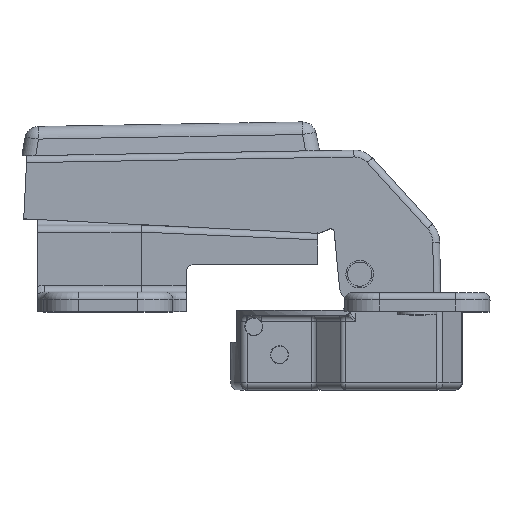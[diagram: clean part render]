
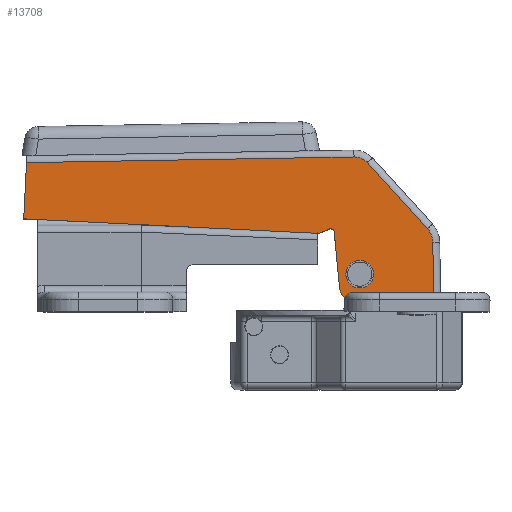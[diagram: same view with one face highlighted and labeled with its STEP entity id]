
A CAD part, top view. The second image highlights one B-rep face of the part: STEP entity #13708.
In plain terms, the highlighted planar face has unit normal (0, 0, 1).
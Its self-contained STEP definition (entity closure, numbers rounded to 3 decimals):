
#497=FACE_BOUND('',#2250,.T.);
#899=PLANE('',#14859);
#1400=FACE_OUTER_BOUND('',#2249,.T.);
#2249=EDGE_LOOP('',(#10511,#10512,#10513,#10514,#10515,#10516,#10517,#10518,
#10519,#10520,#10521,#10522,#10523,#10524,#10525));
#2250=EDGE_LOOP('',(#10526));
#3249=LINE('',#21939,#4314);
#3250=LINE('',#21970,#4315);
#3251=LINE('',#21978,#4316);
#3252=LINE('',#21984,#4317);
#3255=LINE('',#21993,#4320);
#3256=LINE('',#21997,#4321);
#3257=LINE('',#22001,#4322);
#3258=LINE('',#22005,#4323);
#3259=LINE('',#22009,#4324);
#3260=LINE('',#22010,#4325);
#4314=VECTOR('',#17433,8.134);
#4315=VECTOR('',#17446,8.02);
#4316=VECTOR('',#17457,12.92);
#4317=VECTOR('',#17466,47.353);
#4320=VECTOR('',#17475,7.1);
#4321=VECTOR('',#17480,42.572);
#4322=VECTOR('',#17483,1.57);
#4323=VECTOR('',#17486,8.322);
#4324=VECTOR('',#17489,5.083);
#4325=VECTOR('',#17490,0.25);
#5266=CIRCLE('',#14848,3.);
#5269=CIRCLE('',#14853,2.5);
#5272=CIRCLE('',#14860,0.5);
#5273=CIRCLE('',#14861,0.5);
#5274=CIRCLE('',#14862,1.5);
#5275=CIRCLE('',#14863,1.753);
#6200=VERTEX_POINT('',#21936);
#6201=VERTEX_POINT('',#21938);
#6203=VERTEX_POINT('',#21951);
#6205=VERTEX_POINT('',#21968);
#6206=VERTEX_POINT('',#21972);
#6207=VERTEX_POINT('',#21976);
#6208=VERTEX_POINT('',#21980);
#6211=VERTEX_POINT('',#21992);
#6212=VERTEX_POINT('',#21996);
#6213=VERTEX_POINT('',#21998);
#6214=VERTEX_POINT('',#22000);
#6215=VERTEX_POINT('',#22002);
#6216=VERTEX_POINT('',#22004);
#6217=VERTEX_POINT('',#22006);
#6218=VERTEX_POINT('',#22008);
#6219=VERTEX_POINT('',#22011);
#7745=EDGE_CURVE('',#6201,#6200,#3249,.T.);
#7752=EDGE_CURVE('',#6205,#6203,#3250,.T.);
#7754=EDGE_CURVE('',#6206,#6205,#5266,.T.);
#7756=EDGE_CURVE('',#6207,#6206,#3251,.T.);
#7758=EDGE_CURVE('',#6208,#6207,#5269,.T.);
#7759=EDGE_CURVE('',#6201,#6208,#3252,.T.);
#7763=EDGE_CURVE('',#6203,#6211,#3255,.T.);
#7765=EDGE_CURVE('',#6200,#6212,#3256,.T.);
#7766=EDGE_CURVE('',#6213,#6212,#5272,.T.);
#7767=EDGE_CURVE('',#6213,#6214,#3257,.T.);
#7768=EDGE_CURVE('',#6215,#6214,#5273,.T.);
#7769=EDGE_CURVE('',#6215,#6216,#3258,.T.);
#7770=EDGE_CURVE('',#6217,#6216,#5274,.T.);
#7771=EDGE_CURVE('',#6217,#6218,#3259,.T.);
#7772=EDGE_CURVE('',#6218,#6211,#3260,.T.);
#7773=EDGE_CURVE('',#6219,#6219,#5275,.T.);
#10511=ORIENTED_EDGE('',*,*,#7752,.F.);
#10512=ORIENTED_EDGE('',*,*,#7754,.F.);
#10513=ORIENTED_EDGE('',*,*,#7756,.F.);
#10514=ORIENTED_EDGE('',*,*,#7758,.F.);
#10515=ORIENTED_EDGE('',*,*,#7759,.F.);
#10516=ORIENTED_EDGE('',*,*,#7745,.T.);
#10517=ORIENTED_EDGE('',*,*,#7765,.T.);
#10518=ORIENTED_EDGE('',*,*,#7766,.F.);
#10519=ORIENTED_EDGE('',*,*,#7767,.T.);
#10520=ORIENTED_EDGE('',*,*,#7768,.F.);
#10521=ORIENTED_EDGE('',*,*,#7769,.T.);
#10522=ORIENTED_EDGE('',*,*,#7770,.F.);
#10523=ORIENTED_EDGE('',*,*,#7771,.T.);
#10524=ORIENTED_EDGE('',*,*,#7772,.T.);
#10525=ORIENTED_EDGE('',*,*,#7763,.F.);
#10526=ORIENTED_EDGE('',*,*,#7773,.T.);
#13708=ADVANCED_FACE('',(#1400,#497),#899,.T.);
#14848=AXIS2_PLACEMENT_3D('',#21974,#17451,#17452);
#14853=AXIS2_PLACEMENT_3D('',#21982,#17462,#17463);
#14859=AXIS2_PLACEMENT_3D('',#21995,#17478,#17479);
#14860=AXIS2_PLACEMENT_3D('',#21999,#17481,#17482);
#14861=AXIS2_PLACEMENT_3D('',#22003,#17484,#17485);
#14862=AXIS2_PLACEMENT_3D('',#22007,#17487,#17488);
#14863=AXIS2_PLACEMENT_3D('',#22012,#17491,#17492);
#17433=DIRECTION('',(0.,-1.,0.));
#17446=DIRECTION('',(0.067,-0.998,0.));
#17451=DIRECTION('center_axis',(0.,0.,-1.));
#17452=DIRECTION('ref_axis',(0.91,0.415,0.));
#17457=DIRECTION('',(0.71,-0.704,0.));
#17462=DIRECTION('center_axis',(0.,0.,-1.));
#17463=DIRECTION('ref_axis',(0.35,0.937,0.));
#17466=DIRECTION('',(0.998,0.067,0.));
#17475=DIRECTION('',(-0.998,-0.067,0.));
#17478=DIRECTION('center_axis',(0.,0.,1.));
#17479=DIRECTION('ref_axis',(1.,0.,0.));
#17480=DIRECTION('',(1.,0.,0.));
#17481=DIRECTION('center_axis',(0.,0.,-1.));
#17482=DIRECTION('ref_axis',(0.215,-0.977,0.));
#17483=DIRECTION('',(0.908,0.419,0.));
#17484=DIRECTION('center_axis',(0.,0.,1.));
#17485=DIRECTION('ref_axis',(0.476,0.88,0.));
#17486=DIRECTION('',(0.146,-0.989,0.));
#17487=DIRECTION('center_axis',(0.,0.,-1.));
#17488=DIRECTION('ref_axis',(-0.654,-0.757,0.));
#17489=DIRECTION('',(1.,0.,0.));
#17490=DIRECTION('',(-0.067,0.998,0.));
#17491=DIRECTION('center_axis',(0.,0.,-1.));
#17492=DIRECTION('ref_axis',(-1.,0.,0.));
#21936=CARTESIAN_POINT('',(-3.651,0.326,8.2));
#21938=CARTESIAN_POINT('',(-3.651,8.46,8.2));
#21939=CARTESIAN_POINT('',(-3.651,0.326,8.2));
#21951=CARTESIAN_POINT('',(56.108,-8.143,8.2));
#21968=CARTESIAN_POINT('',(55.574,-0.142,8.2));
#21970=CARTESIAN_POINT('',(56.005,-6.61,8.2));
#21972=CARTESIAN_POINT('',(54.694,1.788,8.2));
#21974=CARTESIAN_POINT('Origin',(52.581,-0.341,8.2));
#21976=CARTESIAN_POINT('',(45.525,10.89,8.2));
#21978=CARTESIAN_POINT('',(49.262,7.18,8.2));
#21980=CARTESIAN_POINT('',(43.597,11.61,8.2));
#21982=CARTESIAN_POINT('Origin',(43.764,9.115,8.2));
#21984=CARTESIAN_POINT('',(37.631,11.212,8.2));
#21992=CARTESIAN_POINT('',(49.023,-8.616,8.2));
#21993=CARTESIAN_POINT('',(44.28,-8.932,8.2));
#21995=CARTESIAN_POINT('Origin',(30.703,1.491,8.2));
#21996=CARTESIAN_POINT('',(38.922,0.326,8.2));
#21997=CARTESIAN_POINT('',(39.032,0.326,8.2));
#21998=CARTESIAN_POINT('',(39.131,0.372,8.2));
#21999=CARTESIAN_POINT('Origin',(38.922,0.826,8.2));
#22000=CARTESIAN_POINT('',(40.557,1.031,8.2));
#22001=CARTESIAN_POINT('',(41.164,1.312,8.2));
#22002=CARTESIAN_POINT('',(41.261,0.65,8.2));
#22003=CARTESIAN_POINT('Origin',(40.767,0.577,8.2));
#22004=CARTESIAN_POINT('',(42.473,-7.584,8.2));
#22005=CARTESIAN_POINT('',(42.661,-8.865,8.2));
#22006=CARTESIAN_POINT('',(43.957,-8.865,8.2));
#22007=CARTESIAN_POINT('Origin',(43.957,-7.365,8.2));
#22008=CARTESIAN_POINT('',(49.04,-8.865,8.2));
#22009=CARTESIAN_POINT('',(49.04,-8.865,8.2));
#22010=CARTESIAN_POINT('',(48.656,-3.101,8.2));
#22011=CARTESIAN_POINT('',(47.005,-5.266,8.2));
#22012=CARTESIAN_POINT('Origin',(45.252,-5.266,8.2));
